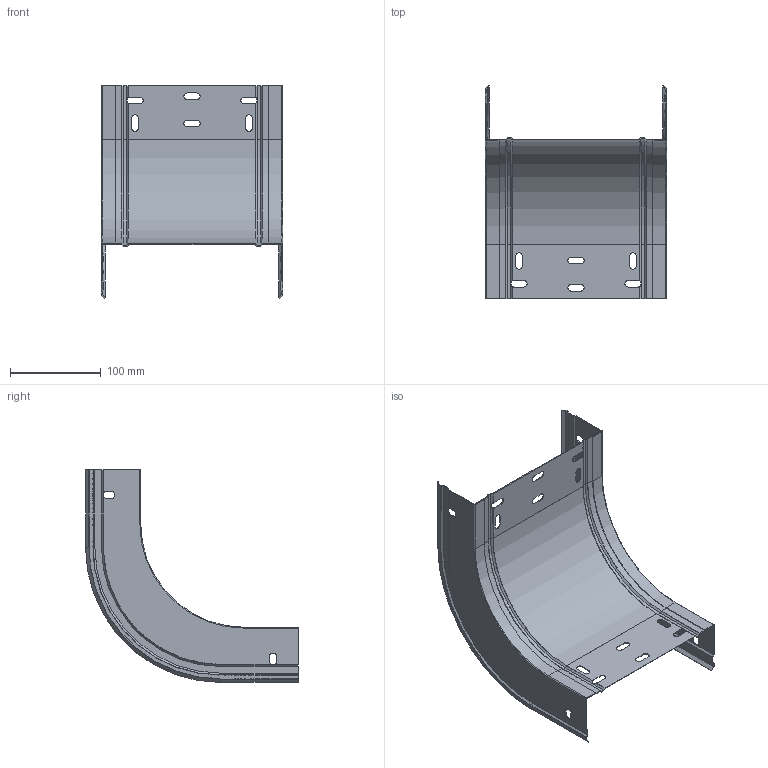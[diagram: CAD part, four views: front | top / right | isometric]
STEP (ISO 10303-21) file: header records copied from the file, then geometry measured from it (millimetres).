
FILE_DESCRIPTION (( 'STEP AP203' ), '1' );
FILE_NAME ('CXERC 200x60.STEP', '2020-02-12T11:08:50', ( '' ), ( '' ), 'SwSTEP 2.0', 'SolidWorks 2019', '' );
FILE_SCHEMA (( 'CONFIG_CONTROL_DESIGN' ));
Length unit declared in the file: millimetre
Products named in the file (3): CXERC 200x60; ERE_LATERAL CX_60; ERE_BASE CX_200
Assembly tree (3 placements, depth 2):
  CXERC 200x60
    ERE_BASE CX_200
    ERE_LATERAL CX_60  x2
Bounding box: 200 x 235.2 x 235.2 mm (x, y, z)
Volume: 92374.3 mm3; surface area: 233669.4 mm2
Topology: 3 solids, 3 shells, 232 faces, 632 edges, 394 vertices
Faces by surface type: plane 142, cylinder 64, cone 22, torus 4
Entity records: 5896 total; most frequent: CARTESIAN_POINT 1008, ORIENTED_EDGE 966, DIRECTION 957, EDGE_CURVE 483, VECTOR 343, LINE 343, AXIS2_PLACEMENT_3D 307, VERTEX_POINT 302
